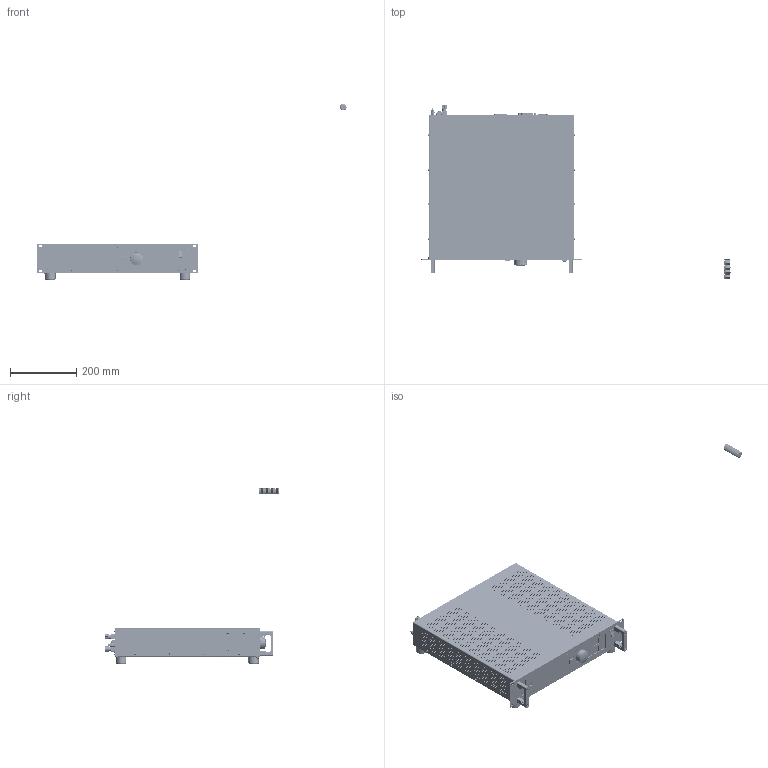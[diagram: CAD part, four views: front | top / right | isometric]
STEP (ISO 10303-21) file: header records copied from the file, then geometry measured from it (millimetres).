
FILE_DESCRIPTION(('STEP AP214'),'1');
FILE_NAME('QL_M1_19Z_2HE_PBK4_30L_3D_01.step','2022-03-21T09:43:12',(' '),(' '),'Spatial InterOp 3D',' ',' ');
FILE_SCHEMA(('AUTOMOTIVE_DESIGN { 1 0 10303 214 1 1 1 1 }'));
Length unit declared in the file: millimetre
Products named in the file (35): 2237_QL 2HE Gehäuse 3D_02; BSO_M3_L10; *U124; AutoCreatedBlock_2197; 2243_QL_2HE_Rückwand_01_mit_Einbauten_3D_01; 2243_QL 2HE Rückwand_3D_01; *U336; *U337; *U338; AutoCreatedBlock_2203; 151_PLHA_3D_05; 1760_PLI_5HE_Querholm_3D_02; 358_QUPRO_3D_03; BG451_mit_MT144_3D_01; *U274; *U275; *U276; AutoCreatedBlock_2219; 2257_QL_IO Panel Standard_3D_01; 2084_IO-Port Abdeckung_3D_01; DIN 7985-A; DIN 7985-AxM4 X 0.7x5; 2265_QL_2HE_Berührungsg_Polkl_Halter_3D_PBK4-30L_01; 3xM2.5_5x5x12; AutoCreatedBlock_2235; DIN 966-A; 2070_ACL_Frontplatte_2HE_3D_02_mit_Einbauten_01; A$C61A611E1; AutoCreatedBlock_2245; A$C61A8C621; 275_DECK_3D_02; AutoCreatedBlock_2193
Assembly tree (95 placements, depth 3):
  (unnamed)
    2237_QL 2HE Gehäuse 3D_02
      BSO_M3_L10  x22
      *U124
      AutoCreatedBlock_2197
    2243_QL_2HE_Rückwand_01_mit_Einbauten_3D_01
      2243_QL 2HE Rückwand_3D_01
      *U336
      *U337  x2
      *U338  x3
      AutoCreatedBlock_2203
    151_PLHA_3D_05  x2
    1760_PLI_5HE_Querholm_3D_02
    358_QUPRO_3D_03
    BG451_mit_MT144_3D_01
      *U274
      *U275  x2
      *U276  x2
      AutoCreatedBlock_2219
    2257_QL_IO Panel Standard_3D_01
    2084_IO-Port Abdeckung_3D_01  x2
    DIN 7985-A  x8
    DIN 7985-AxM4 X 0.7x5
    2265_QL_2HE_Berührungsg_Polkl_Halter_3D_PBK4-30L_01
      3xM2.5_5x5x12  x4
      AutoCreatedBlock_2235
    DIN 966-A  x5
    DIN 7985-A  x2
    DIN 7985-A  x18
    2070_ACL_Frontplatte_2HE_3D_02_mit_Einbauten_01
      A$C61A611E1
      AutoCreatedBlock_2245
    A$C61A8C621  x2
    275_DECK_3D_02
    AutoCreatedBlock_2193
Bounding box: 931.25 x 523.26 x 531.04 mm (x, y, z)
Volume: 16006339.5 mm3; surface area: 1844733.7 mm2
Topology: 245 solids, 263 shells, 18654 faces, 47085 edges, 29973 vertices
Faces by surface type: plane 7450, cone 6331, cylinder 4179, bspline 267, torus 263, sphere 156, revolution 6, extrusion 2
Entity records: 597890 total; most frequent: CARTESIAN_POINT 117760, DIRECTION 76894, ORIENTED_EDGE 72960, EDGE_CURVE 36511, AXIS2_PLACEMENT_3D 26679, VECTOR 23530, LINE 23528, VERTEX_POINT 23019
